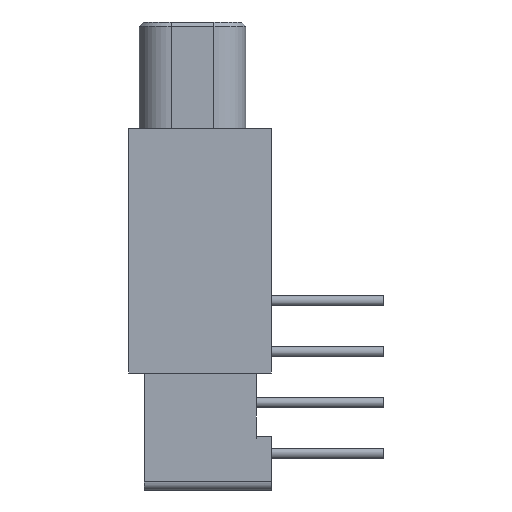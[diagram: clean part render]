
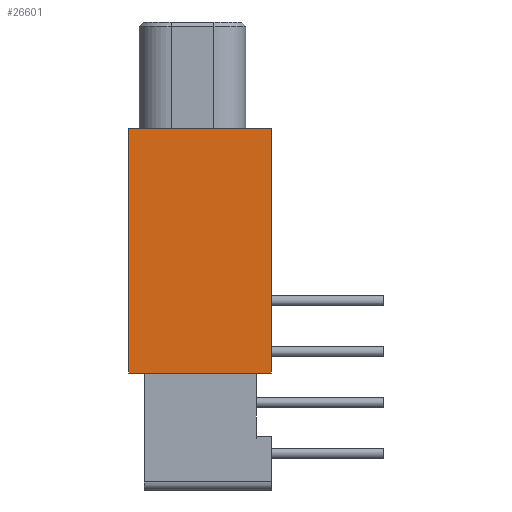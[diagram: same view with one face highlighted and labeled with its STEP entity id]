
A CAD part, left-side view. The second image highlights one B-rep face of the part: STEP entity #26601.
In plain terms, the highlighted planar face has unit normal (-1, 0, 0).
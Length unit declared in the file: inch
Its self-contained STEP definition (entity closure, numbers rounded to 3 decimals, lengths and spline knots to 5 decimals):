
#1638 = VERTEX_POINT ( 'NONE', #15346 ) ;
#2757 = LINE ( 'NONE', #26325, #34310 ) ;
#3789 = VECTOR ( 'NONE', #39312, 39.37008 ) ;
#4106 = DIRECTION ( 'NONE',  ( 0., 0., -1. ) ) ;
#8158 = PLANE ( 'NONE',  #43521 ) ;
#9602 = ORIENTED_EDGE ( 'NONE', *, *, #22834, .F. ) ;
#10527 = CARTESIAN_POINT ( 'NONE',  ( -0.325, -0.07, 0.24 ) ) ;
#10621 = VERTEX_POINT ( 'NONE', #23312 ) ;
#12599 = ORIENTED_EDGE ( 'NONE', *, *, #31487, .F. ) ;
#14675 = LINE ( 'NONE', #30683, #3789 ) ;
#15346 = CARTESIAN_POINT ( 'NONE',  ( -0.325, 0.07, 0. ) ) ;
#16853 = VECTOR ( 'NONE', #4106, 39.37008 ) ;
#17354 = EDGE_LOOP ( 'NONE', ( #9602, #42661, #50550, #12599 ) ) ;
#17918 = DIRECTION ( 'NONE',  ( 0., -1., 0. ) ) ;
#22834 = EDGE_CURVE ( 'NONE', #10621, #39170, #49111, .T. ) ;
#23312 = CARTESIAN_POINT ( 'NONE',  ( -0.325, 0.07, 0.24 ) ) ;
#26325 = CARTESIAN_POINT ( 'NONE',  ( -0.325, -0.07, 0. ) ) ;
#26601 = ADVANCED_FACE ( 'NONE', ( #26849 ), #8158, .F. ) ;
#26849 = FACE_OUTER_BOUND ( 'NONE', #17354, .T. ) ;
#30683 = CARTESIAN_POINT ( 'NONE',  ( -0.325, 0.07, 0.345 ) ) ;
#31487 = EDGE_CURVE ( 'NONE', #39170, #48490, #36042, .T. ) ;
#34310 = VECTOR ( 'NONE', #17918, 39.37008 ) ;
#34976 = EDGE_CURVE ( 'NONE', #10621, #1638, #14675, .T. ) ;
#35192 = DIRECTION ( 'NONE',  ( 0., -1., 0. ) ) ;
#35555 = CARTESIAN_POINT ( 'NONE',  ( -0.325, -0.07, 0.345 ) ) ;
#36042 = LINE ( 'NONE', #35555, #16853 ) ;
#39170 = VERTEX_POINT ( 'NONE', #51570 ) ;
#39312 = DIRECTION ( 'NONE',  ( 0., 0., -1. ) ) ;
#39921 = CARTESIAN_POINT ( 'NONE',  ( -0.325, -0.07, 0.345 ) ) ;
#40592 = EDGE_CURVE ( 'NONE', #1638, #48490, #2757, .T. ) ;
#40696 = DIRECTION ( 'NONE',  ( 1., 0., 0. ) ) ;
#42661 = ORIENTED_EDGE ( 'NONE', *, *, #34976, .T. ) ;
#43521 = AXIS2_PLACEMENT_3D ( 'NONE', #39921, #40696, #47759 ) ;
#44281 = VECTOR ( 'NONE', #35192, 39.37008 ) ;
#46584 = CARTESIAN_POINT ( 'NONE',  ( -0.325, -0.07, 0. ) ) ;
#47759 = DIRECTION ( 'NONE',  ( 0., 0., 1. ) ) ;
#48490 = VERTEX_POINT ( 'NONE', #46584 ) ;
#49111 = LINE ( 'NONE', #10527, #44281 ) ;
#50550 = ORIENTED_EDGE ( 'NONE', *, *, #40592, .T. ) ;
#51570 = CARTESIAN_POINT ( 'NONE',  ( -0.325, -0.07, 0.24 ) ) ;
